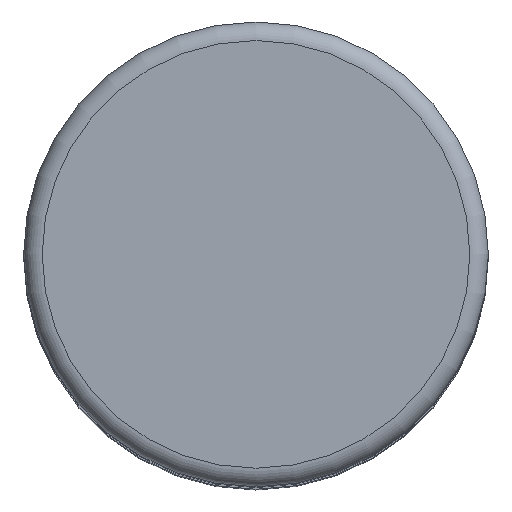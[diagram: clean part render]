
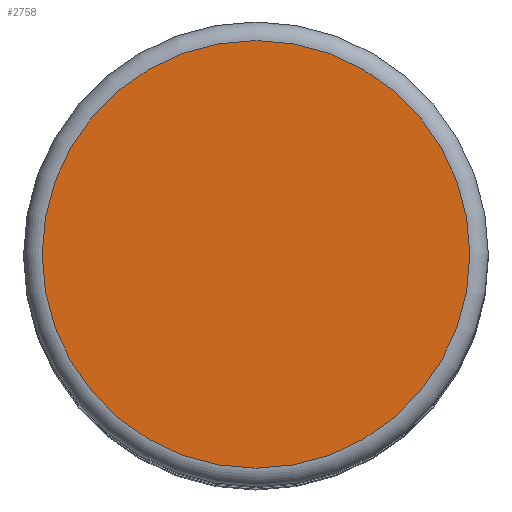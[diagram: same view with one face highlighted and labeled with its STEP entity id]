
A CAD part, top view. The second image highlights one B-rep face of the part: STEP entity #2758.
In plain terms, the highlighted planar face has unit normal (0, 0, 1).
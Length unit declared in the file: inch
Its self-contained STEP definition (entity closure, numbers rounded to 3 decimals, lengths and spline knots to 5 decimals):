
#150=PLANE('',#2944);
#298=FACE_OUTER_BOUND('',#452,.T.);
#452=EDGE_LOOP('',(#2577));
#679=CIRCLE('',#2941,0.115);
#1333=VERTEX_POINT('',#6214);
#1747=EDGE_CURVE('',#1333,#1333,#679,.T.);
#2577=ORIENTED_EDGE('',*,*,#1747,.F.);
#2758=ADVANCED_FACE('',(#298),#150,.T.);
#2941=AXIS2_PLACEMENT_3D('',#6216,#3458,#3459);
#2944=AXIS2_PLACEMENT_3D('',#6221,#3465,#3466);
#3458=DIRECTION('center_axis',(0.,0.,-1.));
#3459=DIRECTION('ref_axis',(-1.,0.,0.));
#3465=DIRECTION('center_axis',(0.,0.,1.));
#3466=DIRECTION('ref_axis',(1.,0.,0.));
#6214=CARTESIAN_POINT('',(0.115,0.,0.5));
#6216=CARTESIAN_POINT('Origin',(0.,0.,0.5));
#6221=CARTESIAN_POINT('Origin',(0.,0.,0.5));
